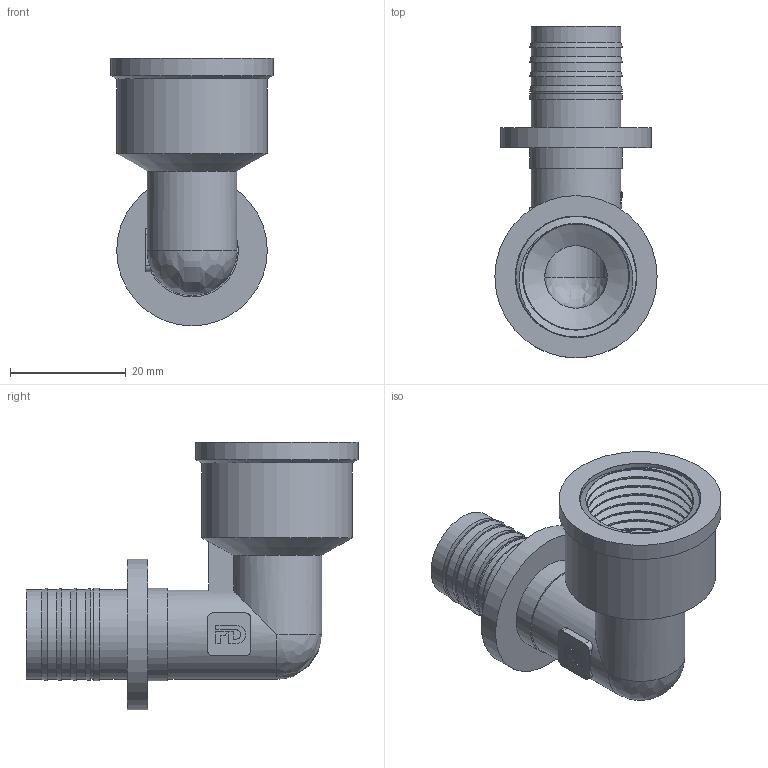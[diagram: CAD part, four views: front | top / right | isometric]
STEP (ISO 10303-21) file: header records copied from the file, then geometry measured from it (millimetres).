
FILE_DESCRIPTION(/* description */ (''),/* implementation_level */ '2;1');
FILE_NAME(/* name */ 'C:\Users\Doom\Desktop\Фадотех\Натяжка\SFU23_NEW 20x0.5F 29.05.2020\SFU23_NEW 20x0.5F 29.05.2020.stp',/* time_stamp */ '2022-07-26T14:31:16+03:00',/* author */ ('Doom'),/* organization */ (''),/* preprocessor_version */ 'ST-DEVELOPER v18',/* originating_system */ 'Autodesk Inventor 2020',/* authorisation */ '');
FILE_SCHEMA (('AUTOMOTIVE_DESIGN { 1 0 10303 214 3 1 1 }'));
Length unit declared in the file: millimetre
Products named in the file (1): FD-SFU11NEW 16X0.5M 18.12.2019
Bounding box: 28 x 57.3 x 46.2 mm (x, y, z)
Volume: 12281.4 mm3; surface area: 12081.2 mm2
Topology: 2 solids, 2 shells, 169 faces, 479 edges, 321 vertices
Faces by surface type: bspline 65, plane 61, cylinder 35, cone 8
Full cylindrical faces by diameter (mm): 10.8 x2, 15.5 x7, 16 x2, 18.26 x9, 20.95 x2, 26 x2, 28 x1
Entity records: 11401 total; most frequent: CARTESIAN_POINT 7402, ORIENTED_EDGE 942, DIRECTION 623, EDGE_CURVE 471, VERTEX_POINT 319, AXIS2_PLACEMENT_3D 209, LINE 205, VECTOR 205
